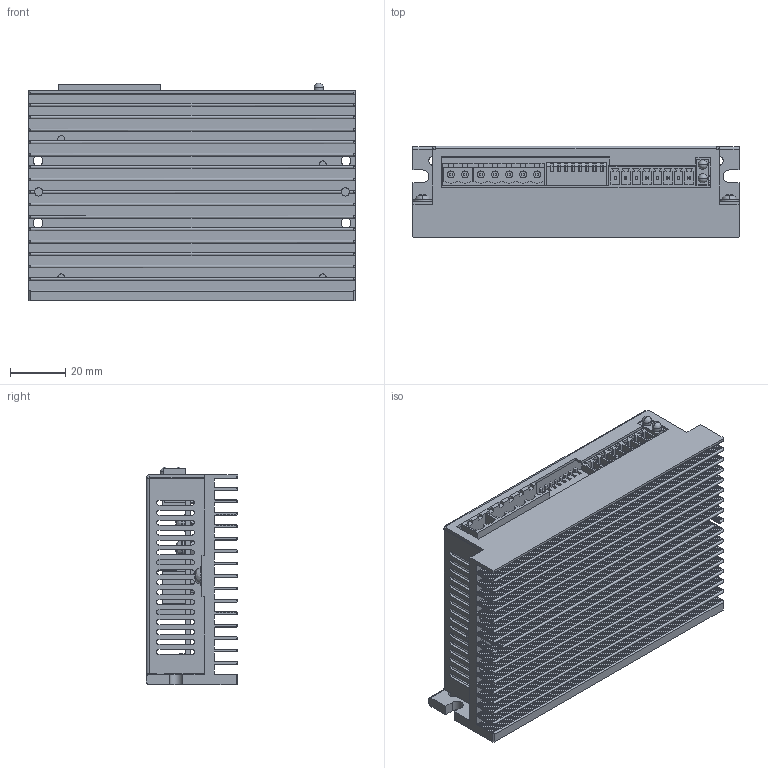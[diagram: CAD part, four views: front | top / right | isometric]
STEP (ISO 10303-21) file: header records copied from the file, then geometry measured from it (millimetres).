
FILE_DESCRIPTION((''),'2;1');
FILE_NAME('YKE5405M','2023-07-06T16:38:02',('Admin'),(''),'CREO PARAMETRIC BY PTC INC, 2020074','CREO PARAMETRIC BY PTC INC, 2020074','');
FILE_SCHEMA(('CONFIG_CONTROL_DESIGN'));
Length unit declared in the file: millimetre
Products named in the file (1): YKE5405M
Bounding box: 118 x 33 x 78.77 mm (x, y, z)
Volume: 89511.6 mm3; surface area: 103328.7 mm2
Topology: 1 solids, 1 shells, 1690 faces, 4693 edges, 3068 vertices
Faces by surface type: plane 845, cylinder 801, sphere 16, cone 16, bspline 12
Entity records: 57142 total; most frequent: CARTESIAN_POINT 12678, DIRECTION 9435, ORIENTED_EDGE 9354, EDGE_CURVE 4677, AXIS2_PLACEMENT_3D 3326, VERTEX_POINT 3068, VECTOR 2783, LINE 2783
